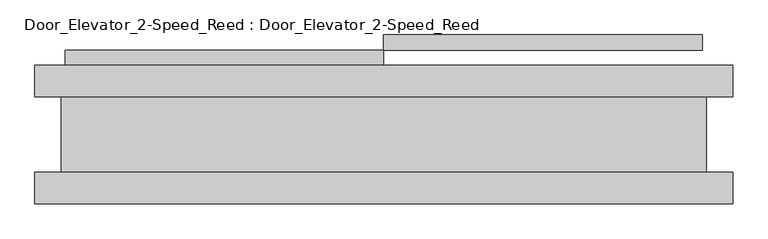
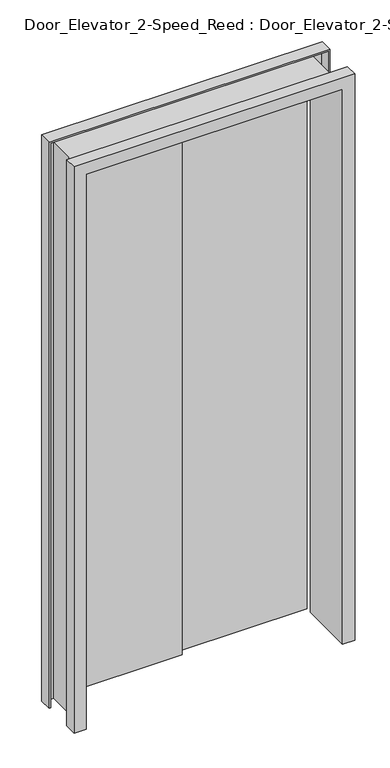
"""IFC4 building model written with IfcOpenShell, lengths in millimetres: proxy geometry, Door_Elevator_2-Speed_Reed : Door_Elevator_2-Speed_Reed."""

import ifcopenshell
import ifcopenshell.guid

model = None  # the IFC model being written
_history = None  # IfcOwnerHistory: only IFC2X3 demands one
_inside = {}  # id of a spatial element -> (the spatial element, [elements in it])
_under = {}  # id of a project, library or spatial element -> (it, [spatial elements below it])
_declared = {}  # id of a project -> (the project, [libraries it declares])
_typed = {}  # id of a type object -> (the type object, [elements of that type])
_made_of = {}  # id of a material, layer set ... -> (it, [elements and type objects made of it])


def new_model(schema):
    """Start an empty IFC model of exactly this schema.

    Asked for "IFC4X3", IfcOpenShell would pick the latest addendum, in which some entities
    have other attributes; the version numbers below select the first issue.
    IFC2X3 requires an IfcOwnerHistory on every rooted entity: one is made here for all.
    """
    global model, _history
    if schema == "IFC4X3":
        model = ifcopenshell.file(schema_version=(4, 3, 0, 0))
    else:
        model = ifcopenshell.file(schema=schema)
    _inside.clear()
    _under.clear()
    _declared.clear()
    _typed.clear()
    _made_of.clear()
    _history = None
    if model.schema == "IFC2X3":
        org = make("IfcOrganization", Name="unknown")
        user = make(
            "IfcPersonAndOrganization",
            ThePerson=make("IfcPerson", FamilyName="unknown"),
            TheOrganization=org,
        )
        app = make(
            "IfcApplication",
            ApplicationDeveloper=org,
            Version="unknown",
            ApplicationFullName="unknown",
            ApplicationIdentifier="unknown",
        )
        _history = make(
            "IfcOwnerHistory",
            OwningUser=user,
            OwningApplication=app,
            ChangeAction="ADDED",
            CreationDate=0,
        )
    return model


def make(cls, **values):
    """One entity of the class cls with the attributes given. An attribute that is None is left unset."""
    return model.create_entity(
        cls, **{name: value for name, value in values.items() if value is not None}
    )


def rooted(cls, **values):
    """An entity with a GlobalId (a new one), such as an element, a storey or a relation."""
    return make(cls, GlobalId=ifcopenshell.guid.new(), OwnerHistory=_history, **values)


def si_unit(unit_type, name, prefix=None):
    """IfcSIUnit, for example si_unit("LENGTHUNIT", "METRE", prefix="MILLI")."""
    return make("IfcSIUnit", UnitType=unit_type, Prefix=prefix, Name=name)


def assignment(units):
    """IfcUnitAssignment: the units of a project."""
    return None if units is None else make("IfcUnitAssignment", Units=units)


def point(xyz):
    """IfcCartesianPoint."""
    return None if xyz is None else make("IfcCartesianPoint", Coordinates=xyz)


def direction(xyz):
    """IfcDirection."""
    return None if xyz is None else make("IfcDirection", DirectionRatios=xyz)


def frame(location, z_axis=None, x_axis=None):
    """IfcAxis2Placement3D, a coordinate frame: its origin and axes. An axis left out is left unset."""
    return make(
        "IfcAxis2Placement3D",
        Location=point(location),
        Axis=direction(z_axis),
        RefDirection=direction(x_axis),
    )


def origin():
    """The frame at (0, 0, 0) with its axes left unset."""
    return frame((0.0, 0.0, 0.0))


def origin_with_axes():
    """The frame at (0, 0, 0) with the z axis (0, 0, 1) and the x axis (1, 0, 0) written out."""
    return frame((0.0, 0.0, 0.0), z_axis=(0.0, 0.0, 1.0), x_axis=(1.0, 0.0, 0.0))


def place(relative_to, where):
    """IfcLocalPlacement: puts the frame where relative to a parent placement (None: the world)."""
    return make(
        "IfcLocalPlacement", PlacementRelTo=relative_to, RelativePlacement=where
    )


def context(
    kind, dimensions, precision=None, world=None, true_north=None, identifier=None
):
    """IfcGeometricRepresentationContext, for example the 3D "Model" context."""
    return make(
        "IfcGeometricRepresentationContext",
        ContextIdentifier=identifier,
        ContextType=kind,
        CoordinateSpaceDimension=dimensions,
        Precision=precision,
        WorldCoordinateSystem=world,
        TrueNorth=true_north,
    )


def project(units=None, contexts=None):
    """IfcProject with its units and contexts."""
    return rooted(
        "IfcProject",
        Name="project",
        RepresentationContexts=contexts,
        UnitsInContext=assignment(units),
    )


def spatial(cls, under=None, at=None, **own):
    """A site, building, storey or space (cls), placed at a placement, below another one or the project."""
    s = rooted(cls, ObjectPlacement=at, **own)
    if under is not None:
        _under.setdefault(under.id(), (under, []))[1].append(s)
    return s


def polyline(points):
    """IfcPolyline through the points."""
    return make("IfcPolyline", Points=[point(p) for p in points])


def outline(outer, holes=None, kind="AREA"):
    """IfcArbitraryClosedProfileDef: a profile drawn as a closed curve; with holes, ...WithVoids."""
    if holes is None:
        return make("IfcArbitraryClosedProfileDef", ProfileType=kind, OuterCurve=outer)
    return make(
        "IfcArbitraryProfileDefWithVoids",
        ProfileType=kind,
        OuterCurve=outer,
        InnerCurves=holes,
    )


def extrude(swept, where, along, depth):
    """IfcExtrudedAreaSolid: the profile swept, set in the frame where, extruded along a direction by depth."""
    return make(
        "IfcExtrudedAreaSolid",
        SweptArea=swept,
        Position=where,
        ExtrudedDirection=direction(along),
        Depth=depth,
    )


def faces_of(points, faces, orient=None, outer=None):
    """IfcFace entities. A face is a list of loops; a loop is a list of indices into points, from 0.

    orient and outer hold one flag for each loop. By default every Orientation is true, the
    first loop of a face is its IfcFaceOuterBound and the others are IfcFaceBound.
    """
    made = []
    for i, loops in enumerate(faces):
        bounds = []
        for j, loop in enumerate(loops):
            is_outer = j == 0 if outer is None else outer[i][j]
            bounds.append(
                make(
                    "IfcFaceOuterBound" if is_outer else "IfcFaceBound",
                    Bound=make("IfcPolyLoop", Polygon=[points[k] for k in loop]),
                    Orientation=True if orient is None else orient[i][j],
                )
            )
        made.append(make("IfcFace", Bounds=bounds))
    return made


def faceted_brep(points, faces, orient=None, outer=None, voids=None):
    """IfcFacetedBrep: a solid bounded by flat faces; with voids (closed shells), ...WithVoids."""
    shared = [point(p) for p in points]
    hull = make("IfcClosedShell", CfsFaces=faces_of(shared, faces, orient, outer))
    if voids is None:
        return make("IfcFacetedBrep", Outer=hull)
    return make(
        "IfcFacetedBrepWithVoids",
        Outer=hull,
        Voids=[
            make(cls, CfsFaces=faces_of(shared, fs, o, b)) for cls, fs, o, b in voids
        ],
    )


def shape(context_of_items, identifier, shape_type, items):
    """IfcShapeRepresentation: the items that make up one representation, for example the "Body"."""
    return make(
        "IfcShapeRepresentation",
        ContextOfItems=context_of_items,
        RepresentationIdentifier=identifier,
        RepresentationType=shape_type,
        Items=items,
    )


def source(mapping_origin, context_of_items, identifier, shape_type, items):
    """IfcRepresentationMap: a shape defined once, which mapped items show again and again."""
    return make(
        "IfcRepresentationMap",
        MappingOrigin=mapping_origin,
        MappedRepresentation=shape(context_of_items, identifier, shape_type, items),
    )


def transform(
    local_origin,
    x_axis=None,
    y_axis=None,
    z_axis=None,
    scale=None,
    scale2=None,
    scale3=None,
    uniform=True,
):
    """IfcCartesianTransformationOperator3D, or its non-uniform kind. x_axis, y_axis, z_axis: its Axis1, 2, 3."""
    if uniform:
        return make(
            "IfcCartesianTransformationOperator3D",
            Axis1=direction(x_axis),
            Axis2=direction(y_axis),
            LocalOrigin=point(local_origin),
            Scale=scale,
            Axis3=direction(z_axis),
        )
    return make(
        "IfcCartesianTransformationOperator3DnonUniform",
        Axis1=direction(x_axis),
        Axis2=direction(y_axis),
        LocalOrigin=point(local_origin),
        Scale=scale,
        Axis3=direction(z_axis),
        Scale2=scale2,
        Scale3=scale3,
    )


def mapped(mapping_source, mapping_target):
    """IfcMappedItem: shows the shape of a source again, moved by a transform."""
    return make(
        "IfcMappedItem", MappingSource=mapping_source, MappingTarget=mapping_target
    )


def made_of(thing, what):
    """Note that an element or type object is made of a material, layer set ...; save() writes the relation."""
    if what is not None:
        _made_of.setdefault(what.id(), (what, []))[1].append(thing)
    return thing


def element(
    cls,
    number,
    at=None,
    inside=None,
    cuts=None,
    type_object=None,
    material=None,
    context=None,
    identifier="Body",
    shape_type=None,
    held_by="IfcProductDefinitionShape",
    body=None,
    shapes=None,
    **own,
):
    """One element of the class cls, such as IfcWall. Its Tag is "e" and its number.

    at: its placement. inside: the storey or other place that contains it. cuts: it is an
    opening in that element (IfcRelVoidsElement). A single representation is given by context,
    identifier, shape_type and body (its items); several are given by shapes. held_by: the class
    of the entity that holds the representations. save() writes the other relations.
    """
    e = rooted(cls, Tag="e%d" % number, ObjectPlacement=at, **own)
    if body is not None:
        shapes = [shape(context, identifier, shape_type, body)]
    if shapes is not None:
        e.Representation = make(held_by, Representations=shapes)
    if inside is not None:
        _inside.setdefault(inside.id(), (inside, []))[1].append(e)
    if cuts is not None:
        rooted(
            "IfcRelVoidsElement", RelatingBuildingElement=cuts, RelatedOpeningElement=e
        )
    if type_object is not None:
        _typed.setdefault(type_object.id(), (type_object, []))[1].append(e)
    return made_of(e, material)


def aggregate(whole, parts):
    """IfcRelAggregates: a whole, such as a stair, and the parts it consists of."""
    return rooted("IfcRelAggregates", RelatingObject=whole, RelatedObjects=parts)


def save(model, path):
    """Write the relations noted so far, then the file.

    IfcRelAggregates (storeys below a building ...), IfcRelContainedInSpatialStructure (elements
    in a storey), IfcRelDefinesByType, IfcRelAssociatesMaterial and IfcRelDeclares: one each for
    every whole, place, type object, material and project.
    """
    for whole, parts in _under.values():
        aggregate(whole, parts)
    for where, things in _inside.values():
        rooted(
            "IfcRelContainedInSpatialStructure",
            RelatedElements=things,
            RelatingStructure=where,
        )
    for kind, things in _typed.values():
        rooted("IfcRelDefinesByType", RelatedObjects=things, RelatingType=kind)
    for what, things in _made_of.values():
        rooted("IfcRelAssociatesMaterial", RelatedObjects=things, RelatingMaterial=what)
    for by, libraries in _declared.values():
        rooted("IfcRelDeclares", RelatingContext=by, RelatedDefinitions=libraries)
    model.write(path)


def door_elevator_2_speed_reed_door_elevator_2_speed_reed_e7aa5114(model_context):
    return source(origin(), model_context, "Body", "SolidModel", [
        extrude(outline(polyline([(50.8, 166.6875), (584.2, 166.6875), (584.2, 141.2875), (50.8, 141.2875), (50.8, 166.6875)])), origin_with_axes(), (0.0, 0.0, 1.0), 2438.4),
        extrude(outline(polyline([(50.8, 115.8875), (-482.6, 115.8875), (-482.6, 141.2875), (50.8, 141.2875), (50.8, 115.8875)])), origin_with_axes(), (0.0, 0.0, 1.0), 2438.4),
        faceted_brep([(635.0, 115.8875, 0.0), (635.0, 63.5, 0.0), (628.65, 63.5, 0.0), (628.65, 109.5375, 0.0), (590.55, 109.5375, 0.0), (590.55, -109.5375, 0.0), (628.65, -109.5375, 0.0), (628.65, -63.5, 0.0), (635.0, -63.5, 0.0), (635.0, -115.8875, 0.0), (584.2, -115.8875, 0.0), (584.2, 115.8875, 0.0), (635.0, 115.8875, 2489.2), (635.0, 63.5, 2489.2), (-533.4, 63.5, 2489.2), (-533.4, 63.5, 0.0), (-527.05, 63.5, 0.0), (-527.05, 63.5, 2482.85), (628.65, 63.5, 2482.85), (628.65, 109.5375, 2482.85), (-527.05, 109.5375, 2482.85), (-527.05, 109.5375, 0.0), (-488.95, 109.5375, 0.0), (-488.95, 109.5375, 2444.75), (590.55, 109.5375, 2444.75), (590.55, -109.5375, 2444.75), (-488.95, -109.5375, 2444.75), (-488.95, -109.5375, 0.0), (-527.05, -109.5375, 0.0), (-527.05, -109.5375, 2482.85), (628.65, -109.5375, 2482.85), (628.65, -63.5, 2482.85), (-527.05, -63.5, 2482.85), (-527.05, -63.5, 0.0), (-533.4, -63.5, 0.0), (-533.4, -63.5, 2489.2), (635.0, -63.5, 2489.2), (635.0, -115.8875, 2489.2), (-533.4, -115.8875, 2489.2), (-533.4, -115.8875, 0.0), (-482.6, -115.8875, 0.0), (-482.6, -115.8875, 2438.4), (584.2, -115.8875, 2438.4), (584.2, 115.8875, 2438.4), (-482.6, 115.8875, 2438.4), (-482.6, 115.8875, 0.0), (-533.4, 115.8875, 0.0), (-533.4, 115.8875, 2489.2)], [[[0, 1, 2, 3, 4, 5, 6, 7, 8, 9, 10, 11]], [[1, 0, 12, 13]], [[2, 1, 13, 14, 15, 16, 17, 18]], [[3, 2, 18, 19]], [[4, 3, 19, 20, 21, 22, 23, 24]], [[5, 4, 24, 25]], [[6, 5, 25, 26, 27, 28, 29, 30]], [[7, 6, 30, 31]], [[8, 7, 31, 32, 33, 34, 35, 36]], [[9, 8, 36, 37]], [[10, 9, 37, 38, 39, 40, 41, 42]], [[11, 10, 42, 43]], [[0, 11, 43, 44, 45, 46, 47, 12]], [[14, 47, 46, 15]], [[46, 45, 40, 39, 34, 33, 28, 27, 22, 21, 16, 15]], [[20, 17, 16, 21]], [[26, 23, 22, 27]], [[32, 29, 28, 33]], [[38, 35, 34, 39]], [[44, 41, 40, 45]], [[13, 12, 47, 14]], [[19, 18, 17, 20]], [[25, 24, 23, 26]], [[31, 30, 29, 32]], [[37, 36, 35, 38]], [[43, 42, 41, 44]]]),
    ])


if __name__ == "__main__":
    model = new_model("IFC4")
    model_context = context("Model", 3, world=origin())
    ifc_project = project(units=[si_unit("LENGTHUNIT", "METRE", prefix="MILLI")], contexts=[model_context])
    site = spatial("IfcSite", under=ifc_project)
    building = spatial("IfcBuilding", under=site)
    placement = place(None, origin())
    door_elevator_2_speed_reed_door_elevator_2_speed_reed_shape = door_elevator_2_speed_reed_door_elevator_2_speed_reed_e7aa5114(model_context)
    element("IfcBuildingElementProxy", 1, Name="Door_Elevator_2-Speed_Reed : Door_Elevator_2-Speed_Reed", ObjectType="Door_Elevator_2-Speed_Reed : Door_Elevator_2-Speed_Reed", at=placement, inside=building, context=model_context, shape_type="MappedRepresentation", body=[
        mapped(door_elevator_2_speed_reed_door_elevator_2_speed_reed_shape, transform((0.0, 0.0, 0.0), x_axis=(1.0, 0.0, 0.0), y_axis=(0.0, 1.0, 0.0), z_axis=(0.0, 0.0, 1.0))),
    ])
    save(model, "model.ifc")
